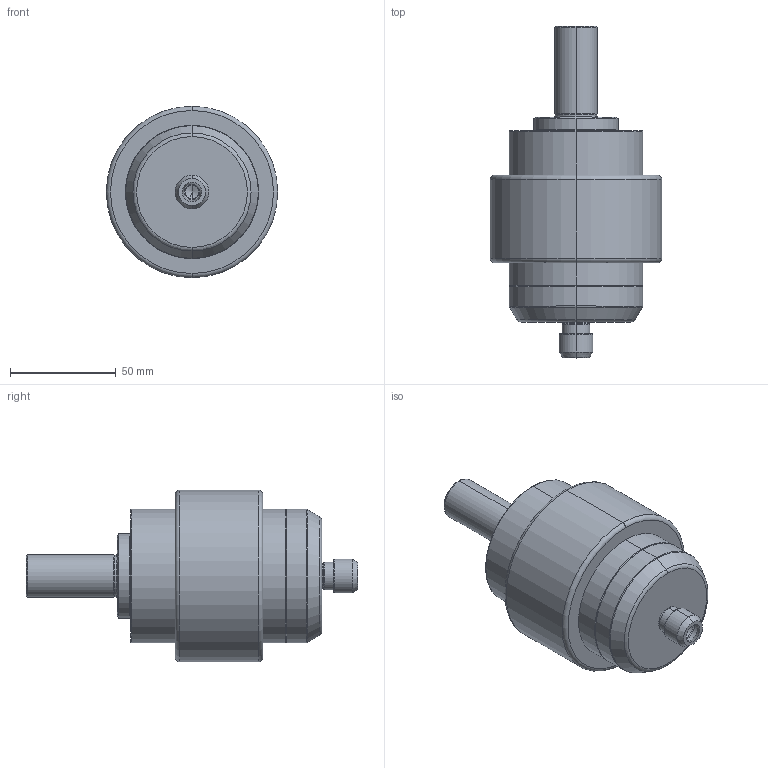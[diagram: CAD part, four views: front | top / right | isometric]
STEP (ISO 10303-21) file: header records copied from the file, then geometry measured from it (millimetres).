
FILE_DESCRIPTION (( 'STEP AP214' ), '1' );
FILE_NAME ('TJS GJET ST20 V4 - Light.STEP', '2025-11-06T14:28:26', ( 'pc' ), ( '' ), 'SwSTEP 2.0', 'SolidWorks 2024', '' );
FILE_SCHEMA (( 'AUTOMOTIVE_DESIGN' ));
Length unit declared in the file: millimetre
Products named in the file (1): TJS GJET ST20 V4 - Light
Bounding box: 81 x 156.8 x 81 mm (x, y, z)
Volume: 380772.9 mm3; surface area: 36492.3 mm2
Topology: 1 solids, 1 shells, 88 faces, 178 edges, 98 vertices
Faces by surface type: cone 32, cylinder 30, torus 16, plane 10
Entity records: 2281 total; most frequent: DIRECTION 464, CARTESIAN_POINT 361, ORIENTED_EDGE 348, AXIS2_PLACEMENT_3D 201, EDGE_CURVE 174, CIRCLE 112, EDGE_LOOP 98, VERTEX_POINT 98
